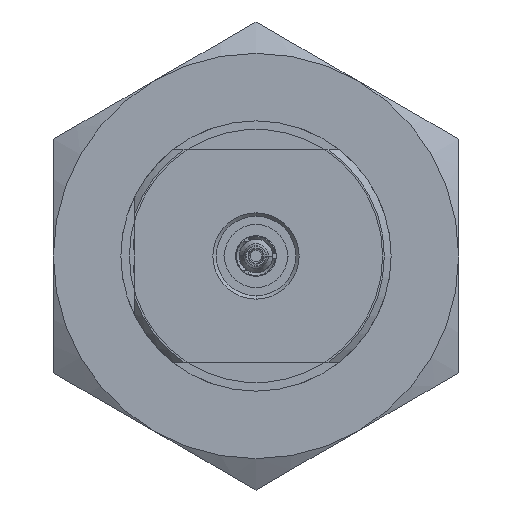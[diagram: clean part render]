
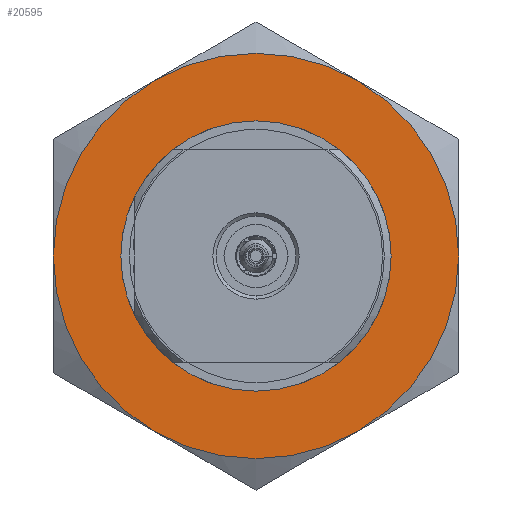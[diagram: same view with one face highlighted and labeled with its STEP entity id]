
A CAD part, left-side view. The second image highlights one B-rep face of the part: STEP entity #20595.
In plain terms, the highlighted planar face has unit normal (-1, 0, 0).
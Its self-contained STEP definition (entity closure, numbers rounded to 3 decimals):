
#20130=CARTESIAN_POINT('',(0.,0.,0.));
#20131=DIRECTION('',(1.,0.,0.));
#20132=DIRECTION('',(0.,0.,1.));
#20133=AXIS2_PLACEMENT_3D('',#20130,#20131,#20132);
#20135=CARTESIAN_POINT('',(0.,0.,
0.));
#20136=DIRECTION('',(1.,0.,0.));
#20137=DIRECTION('',(0.,0.,-1.));
#20138=AXIS2_PLACEMENT_3D('',#20135,#20136,#20137);
#20140=CARTESIAN_POINT('',(0.,0.,0.));
#20141=DIRECTION('',(1.,0.,0.));
#20142=DIRECTION('',(0.,1.,0.));
#20143=AXIS2_PLACEMENT_3D('',#20140,#20141,#20142);
#20145=CARTESIAN_POINT('',(0.,0.,0.));
#20146=DIRECTION('',(1.,0.,0.));
#20147=DIRECTION('',(0.,0.5,0.866));
#20148=AXIS2_PLACEMENT_3D('',#20145,#20146,#20147);
#20150=CARTESIAN_POINT('',(0.,0.,0.));
#20151=DIRECTION('',(1.,0.,0.));
#20152=DIRECTION('',(0.,-1.,0.));
#20153=AXIS2_PLACEMENT_3D('',#20150,#20151,#20152);
#20155=CARTESIAN_POINT('',(0.,0.,0.));
#20156=DIRECTION('',(1.,0.,0.));
#20157=DIRECTION('',(0.,-0.5,-0.866));
#20158=AXIS2_PLACEMENT_3D('',#20155,#20156,#20157);
#20261=CARTESIAN_POINT('',(0.,18.,0.));
#20294=CARTESIAN_POINT('',(0.,0.,0.));
#20295=DIRECTION('',(-1.,0.,0.));
#20296=DIRECTION('',(0.,-1.,0.));
#20297=AXIS2_PLACEMENT_3D('',#20294,#20295,#20296);
#20299=CARTESIAN_POINT('',(0.,0.,0.));
#20300=DIRECTION('',(-1.,0.,0.));
#20301=DIRECTION('',(0.,1.,0.));
#20302=AXIS2_PLACEMENT_3D('',#20299,#20300,#20301);
#20311=CARTESIAN_POINT('',(0.,-9.,
15.588));
#20512=CARTESIAN_POINT('',(0.,0.,11.45));
#20513=CARTESIAN_POINT('',(0.,0.,-11.45));
#20514=VERTEX_POINT('',#20512);
#20515=VERTEX_POINT('',#20513);
#20529=VERTEX_POINT('',#20261);
#20531=VERTEX_POINT('',#20311);
#20532=CARTESIAN_POINT('',(0.,9.,15.588));
#20533=VERTEX_POINT('',#20532);
#20534=CARTESIAN_POINT('',(0.,-18.,0.));
#20535=CARTESIAN_POINT('',(0.,-9.,-15.588));
#20536=VERTEX_POINT('',#20534);
#20537=VERTEX_POINT('',#20535);
#20538=CARTESIAN_POINT('',(0.,9.,-15.588));
#20539=VERTEX_POINT('',#20538);
#20570=CARTESIAN_POINT('',(0.,0.,0.));
#20571=DIRECTION('',(1.,0.,0.));
#20572=DIRECTION('',(0.,-1.,0.));
#20573=AXIS2_PLACEMENT_3D('',#20570,#20571,#20572);
#20574=PLANE('',#20573);
#20576=ORIENTED_EDGE('',*,*,#20575,.F.);
#20578=ORIENTED_EDGE('',*,*,#20577,.T.);
#20580=ORIENTED_EDGE('',*,*,#20579,.T.);
#20582=ORIENTED_EDGE('',*,*,#20581,.F.);
#20584=ORIENTED_EDGE('',*,*,#20583,.T.);
#20586=ORIENTED_EDGE('',*,*,#20585,.T.);
#20587=EDGE_LOOP('',(#20576,#20578,#20580,#20582,#20584,#20586));
#20588=FACE_OUTER_BOUND('',#20587,.F.);
#20590=ORIENTED_EDGE('',*,*,#20589,.F.);
#20592=ORIENTED_EDGE('',*,*,#20591,.F.);
#20593=EDGE_LOOP('',(#20590,#20592));
#20594=FACE_BOUND('',#20593,.F.);
#20595=ADVANCED_FACE('',(#20588,#20594),#20574,.F.);
#20134=CIRCLE('',#20133,11.45);
#20139=CIRCLE('',#20138,11.45);
#20144=CIRCLE('',#20143,18.);
#20149=CIRCLE('',#20148,18.);
#20154=CIRCLE('',#20153,18.);
#20159=CIRCLE('',#20158,18.);
#20298=CIRCLE('',#20297,18.);
#20303=CIRCLE('',#20302,18.);
#20575=EDGE_CURVE('',#20529,#20539,#20303,.T.);
#20577=EDGE_CURVE('',#20529,#20533,#20144,.T.);
#20579=EDGE_CURVE('',#20533,#20531,#20149,.T.);
#20581=EDGE_CURVE('',#20536,#20531,#20298,.T.);
#20583=EDGE_CURVE('',#20536,#20537,#20154,.T.);
#20585=EDGE_CURVE('',#20537,#20539,#20159,.T.);
#20589=EDGE_CURVE('',#20514,#20515,#20134,.T.);
#20591=EDGE_CURVE('',#20515,#20514,#20139,.T.);
